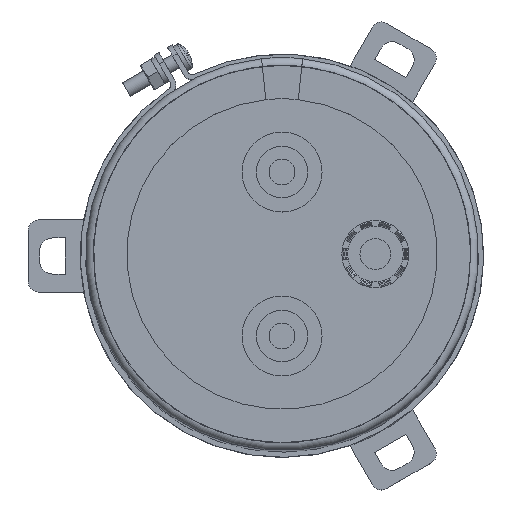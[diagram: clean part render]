
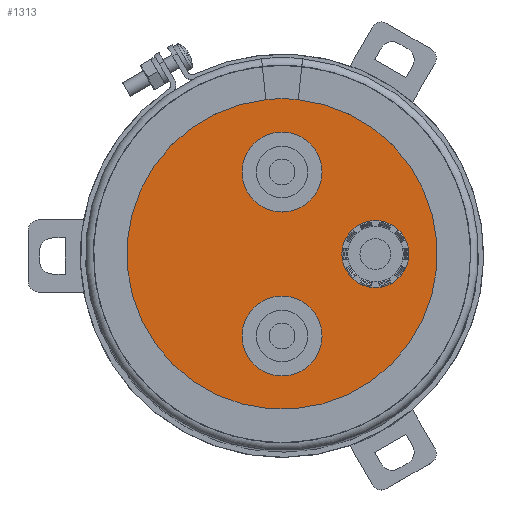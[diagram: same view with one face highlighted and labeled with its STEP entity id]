
A CAD part, top view. The second image highlights one B-rep face of the part: STEP entity #1313.
In plain terms, the highlighted planar face has unit normal (0, 0, 1).
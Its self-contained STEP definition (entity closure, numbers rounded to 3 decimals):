
#1175=PLANE('',#4651);
#1313=ADVANCED_FACE('',(#1610,#1611,#1612,#1613),#1175,.F.);
#1610=FACE_BOUND('',#1767,.T.);
#1611=FACE_BOUND('',#1768,.T.);
#1612=FACE_BOUND('',#1769,.T.);
#1613=FACE_BOUND('',#1770,.T.);
#1767=EDGE_LOOP('',(#2268));
#1768=EDGE_LOOP('',(#2269));
#1769=EDGE_LOOP('',(#2270));
#1770=EDGE_LOOP('',(#2271));
#2268=ORIENTED_EDGE('',*,*,#3762,.F.);
#2269=ORIENTED_EDGE('',*,*,#3763,.T.);
#2270=ORIENTED_EDGE('',*,*,#3764,.F.);
#2271=ORIENTED_EDGE('',*,*,#3765,.F.);
#3316=VERTEX_POINT('',#6724);
#3317=VERTEX_POINT('',#6726);
#3318=VERTEX_POINT('',#6728);
#3319=VERTEX_POINT('',#6730);
#3762=EDGE_CURVE('',#3316,#3316,#4307,.T.);
#3763=EDGE_CURVE('',#3317,#3317,#4308,.T.);
#3764=EDGE_CURVE('',#3318,#3318,#4309,.T.);
#3765=EDGE_CURVE('',#3319,#3319,#4310,.T.);
#4307=CIRCLE('',#4647,6.5);
#4308=CIRCLE('',#4648,7.75);
#4309=CIRCLE('',#4649,7.75);
#4310=CIRCLE('',#4650,36.6);
#4647=AXIS2_PLACEMENT_3D('',#6723,#5370,#5371);
#4648=AXIS2_PLACEMENT_3D('',#6725,#5372,#5373);
#4649=AXIS2_PLACEMENT_3D('',#6727,#5374,#5375);
#4650=AXIS2_PLACEMENT_3D('',#6729,#5376,#5377);
#4651=AXIS2_PLACEMENT_3D('',#6731,#5378,#5379);
#5370=DIRECTION('',(0.,0.,1.));
#5371=DIRECTION('',(0.,-1.,0.));
#5372=DIRECTION('',(0.,0.,-1.));
#5373=DIRECTION('',(0.,-1.,0.));
#5374=DIRECTION('',(0.,0.,1.));
#5375=DIRECTION('',(0.,-1.,0.));
#5376=DIRECTION('',(0.,0.,-1.));
#5377=DIRECTION('',(0.,1.,0.));
#5378=DIRECTION('',(0.,0.,-1.));
#5379=DIRECTION('',(0.,1.,0.));
#6723=CARTESIAN_POINT('',(18.1,0.,219.4));
#6724=CARTESIAN_POINT('',(18.1,-6.5,219.4));
#6725=CARTESIAN_POINT('',(0.,15.9,219.4));
#6726=CARTESIAN_POINT('',(0.,8.15,219.4));
#6727=CARTESIAN_POINT('',(0.,-15.9,219.4));
#6728=CARTESIAN_POINT('',(0.,-23.65,219.4));
#6729=CARTESIAN_POINT('',(0.,0.,219.4));
#6730=CARTESIAN_POINT('',(0.,36.6,219.4));
#6731=CARTESIAN_POINT('',(0.,0.,219.4));
